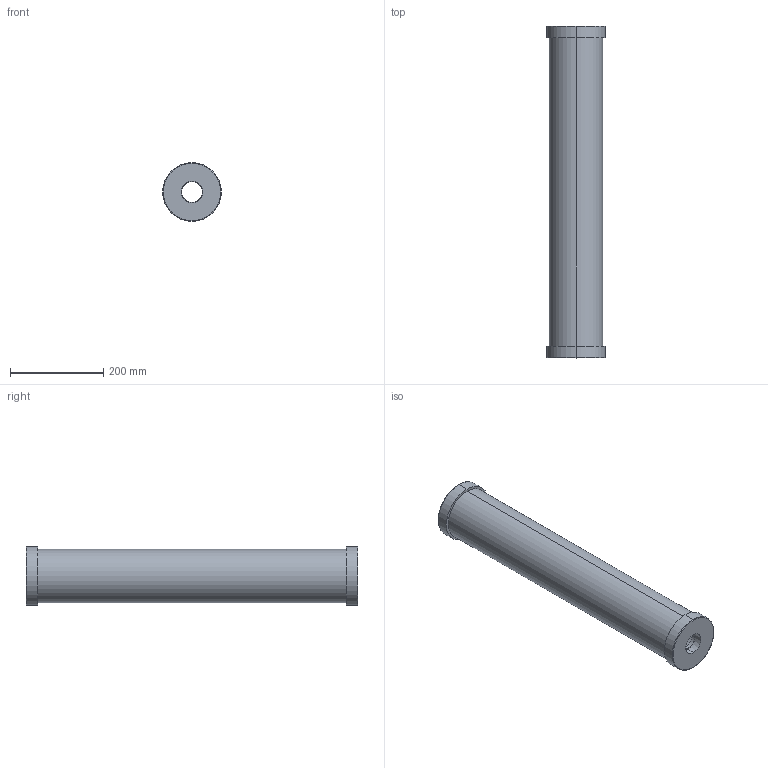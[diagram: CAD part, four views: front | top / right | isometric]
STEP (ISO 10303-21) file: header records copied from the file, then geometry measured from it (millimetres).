
FILE_DESCRIPTION (( 'STEP AP203' ), '1' );
FILE_NAME ('CC5000_P_NPT.STEP', '2016-03-21T09:10:33', ( '' ), ( '' ), 'SwSTEP 2.0', 'SolidWorks 2014', '' );
FILE_SCHEMA (( 'CONFIG_CONTROL_DESIGN' ));
Length unit declared in the file: inch
Products named in the file (2): CC5000_P_NPT
Bounding box: 125.73 x 711.2 x 125.73 mm (x, y, z)
Volume: 2024847.1 mm3; surface area: 512763.8 mm2
Topology: 1 solids, 1 shells, 28 faces, 56 edges, 36 vertices
Faces by surface type: cylinder 12, plane 8, torus 4, cone 4
Entity records: 909 total; most frequent: DIRECTION 156, CARTESIAN_POINT 122, ORIENTED_EDGE 112, AXIS2_PLACEMENT_3D 70, EDGE_CURVE 56, CIRCLE 40, VERTEX_POINT 36, EDGE_LOOP 36
